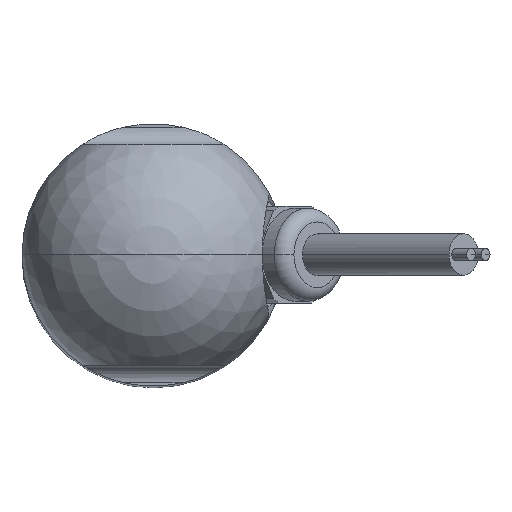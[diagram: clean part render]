
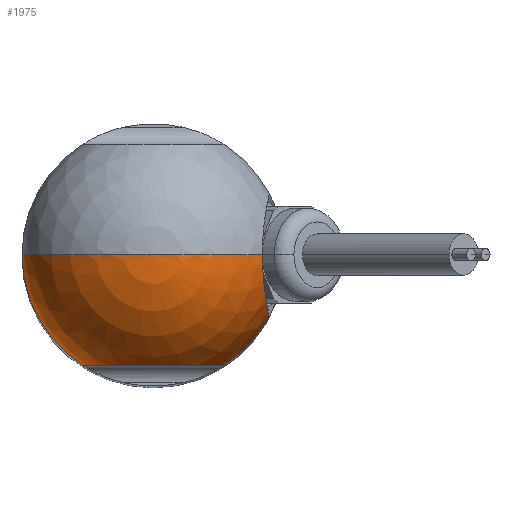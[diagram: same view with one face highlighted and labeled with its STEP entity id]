
A CAD part, top view. The second image highlights one B-rep face of the part: STEP entity #1975.
In plain terms, the highlighted spherical face has radius 19 mm.
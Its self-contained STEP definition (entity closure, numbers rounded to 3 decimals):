
#504=CARTESIAN_POINT('',(16.756,-8.957,
0.));
#505=CARTESIAN_POINT('',(16.78,-8.912,0.675));
#506=CARTESIAN_POINT('',(16.786,-8.749,1.992));
#507=CARTESIAN_POINT('',(16.699,-8.27,3.86));
#508=CARTESIAN_POINT('',(16.556,-7.578,5.522));
#509=CARTESIAN_POINT('',(16.39,-6.716,6.933));
#510=CARTESIAN_POINT('',(16.237,-5.801,8.017));
#511=CARTESIAN_POINT('',(16.106,-4.864,8.857));
#512=CARTESIAN_POINT('',(15.987,-3.809,9.564));
#513=CARTESIAN_POINT('',(15.888,-2.605,10.119));
#514=CARTESIAN_POINT('',(15.824,-1.305,10.464));
#515=CARTESIAN_POINT('',(15.81,-0.435,10.538));
#516=CARTESIAN_POINT('',(15.81,0.,10.538));
#518=CARTESIAN_POINT('',(0.,-16.,0.));
#519=DIRECTION('',(0.,1.,0.));
#520=DIRECTION('',(-1.,0.,0.));
#521=AXIS2_PLACEMENT_3D('',#518,#519,#520);
#523=CARTESIAN_POINT('',(0.,0.,0.));
#524=DIRECTION('',(0.,-1.,0.));
#525=DIRECTION('',(0.,0.,1.));
#526=AXIS2_PLACEMENT_3D('',#523,#524,#525);
#528=CARTESIAN_POINT('',(0.,0.,0.));
#529=DIRECTION('',(0.,1.,0.));
#530=DIRECTION('',(0.,0.,1.));
#531=AXIS2_PLACEMENT_3D('',#528,#529,#530);
#540=CARTESIAN_POINT('',(16.756,-8.957,
0.));
#560=CARTESIAN_POINT('',(0.,0.,0.));
#561=DIRECTION('',(0.,0.,-1.));
#562=DIRECTION('',(-0.539,-0.842,0.));
#563=AXIS2_PLACEMENT_3D('',#560,#561,#562);
#578=CARTESIAN_POINT('',(0.,0.,0.));
#579=DIRECTION('',(0.,0.,-1.));
#580=DIRECTION('',(0.882,-0.471,0.));
#581=AXIS2_PLACEMENT_3D('',#578,#579,#580);
#957=CARTESIAN_POINT('',(15.81,0.,10.538));
#1060=CARTESIAN_POINT('',(0.,0.,19.));
#1061=CARTESIAN_POINT('',(-19.,0.,0.));
#1062=VERTEX_POINT('',#1060);
#1063=VERTEX_POINT('',#1061);
#1096=CARTESIAN_POINT('',(-10.247,-16.,0.));
#1097=CARTESIAN_POINT('',(10.247,-16.,0.));
#1098=VERTEX_POINT('',#1096);
#1099=VERTEX_POINT('',#1097);
#1167=VERTEX_POINT('',#957);
#1169=VERTEX_POINT('',#540);
#1957=CARTESIAN_POINT('',(0.,0.,0.));
#1958=DIRECTION('',(0.,0.,1.));
#1959=DIRECTION('',(-1.,0.,0.));
#1960=AXIS2_PLACEMENT_3D('',#1957,#1958,#1959);
#1961=SPHERICAL_SURFACE('',#1960,19.);
#1962=ORIENTED_EDGE('',*,*,#1946,.F.);
#1964=ORIENTED_EDGE('',*,*,#1963,.T.);
#1966=ORIENTED_EDGE('',*,*,#1965,.F.);
#1968=ORIENTED_EDGE('',*,*,#1967,.T.);
#1970=ORIENTED_EDGE('',*,*,#1969,.F.);
#1972=ORIENTED_EDGE('',*,*,#1971,.T.);
#1973=EDGE_LOOP('',(#1962,#1964,#1966,#1968,#1970,#1972));
#1974=FACE_OUTER_BOUND('',#1973,.F.);
#517=B_SPLINE_CURVE_WITH_KNOTS('',3,(#504,#505,#506,#507,#508,#509,#510,#511,
#512,#513,#514,#515,#516),.UNSPECIFIED.,.F.,.F.,(4,1,1,1,1,1,1,1,1,1,4),(0.,
0.1,0.2,0.3,0.4,0.5,0.6,0.7,0.8,0.9,1.),.UNSPECIFIED.);
#522=CIRCLE('',#521,10.247);
#527=CIRCLE('',#526,19.);
#532=CIRCLE('',#531,19.);
#564=CIRCLE('',#563,19.);
#582=CIRCLE('',#581,19.);
#1946=EDGE_CURVE('',#1169,#1167,#517,.T.);
#1963=EDGE_CURVE('',#1169,#1099,#582,.T.);
#1965=EDGE_CURVE('',#1098,#1099,#522,.T.);
#1967=EDGE_CURVE('',#1098,#1063,#564,.T.);
#1969=EDGE_CURVE('',#1062,#1063,#527,.T.);
#1971=EDGE_CURVE('',#1062,#1167,#532,.T.);
#1975=ADVANCED_FACE('',(#1974),#1961,.T.);
